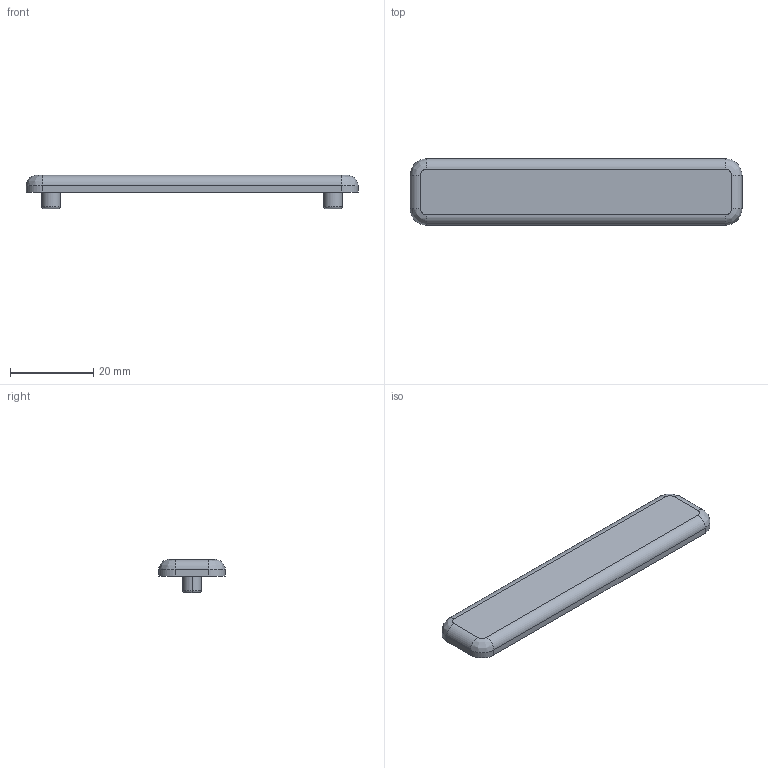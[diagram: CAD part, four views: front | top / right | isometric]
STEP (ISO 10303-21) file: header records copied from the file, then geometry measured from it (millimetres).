
FILE_DESCRIPTION (( 'STEP AP203' ), '1' );
FILE_NAME ('421016_Abdeckkappe 8 16x80.step', '2022-06-24T07:26:40', ( '' ), ( '' ), 'SwSTEP 2.0', 'SolidWorks 2021', '' );
FILE_SCHEMA (( 'CONFIG_CONTROL_DESIGN' ));
Length unit declared in the file: millimetre
Products named in the file (1): 421016_Abdeckkappe 8 16x80
Bounding box: 80 x 16 x 8 mm (x, y, z)
Volume: 4067.1 mm3; surface area: 3382.7 mm2
Topology: 1 solids, 1 shells, 33 faces, 72 edges, 44 vertices
Faces by surface type: plane 13, cylinder 12, torus 4, bspline 4
Entity records: 1023 total; most frequent: CARTESIAN_POINT 222, DIRECTION 160, ORIENTED_EDGE 144, EDGE_CURVE 72, AXIS2_PLACEMENT_3D 62, VERTEX_POINT 44, EDGE_LOOP 36, LINE 36
